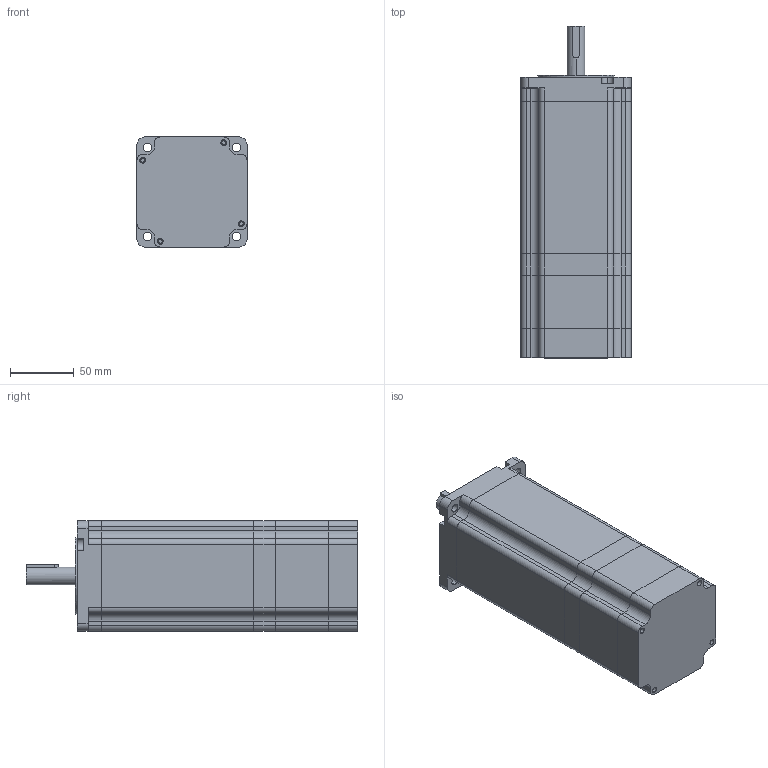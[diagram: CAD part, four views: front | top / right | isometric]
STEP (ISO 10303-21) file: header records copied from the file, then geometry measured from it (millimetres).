
FILE_DESCRIPTION (( 'STEP AP214' ), '1' );
FILE_NAME ('86HSM116E1D03Y404K1440-BZ.STEP', '2020-03-27T02:24:35', ( 'wimxt.com' ), ( 'wimxt.com' ), 'SwSTEP 2.0', 'SolidWorks 2014', '' );
FILE_SCHEMA (( 'AUTOMOTIVE_DESIGN' ));
Length unit declared in the file: millimetre
Products named in the file (7): 86A8EC-Z瑩; 86A8EC-Z傷裔; 86A8EC-Z綴裔; 86A8EC-Z价陬; 86A8EC-Z綴傷裔; 86-119隅赽; 86HSM116E1D03Y404K1440-BZ
Assembly tree (6 placements, depth 2):
  86HSM116E1D03Y404K1440-BZ
    86-119隅赽
    86A8EC-Z綴傷裔
    86A8EC-Z价陬
    86A8EC-Z綴裔
    86A8EC-Z傷裔
    86A8EC-Z瑩
Bounding box: 86 x 259.4 x 86 mm (x, y, z)
Volume: 759089.7 mm3; surface area: 183402.5 mm2
Topology: 6 solids, 6 shells, 305 faces, 814 edges, 543 vertices
Faces by surface type: cylinder 172, plane 133
Entity records: 10028 total; most frequent: DIRECTION 1786, CARTESIAN_POINT 1709, ORIENTED_EDGE 1628, EDGE_CURVE 814, AXIS2_PLACEMENT_3D 662, VERTEX_POINT 543, VECTOR 462, LINE 462
